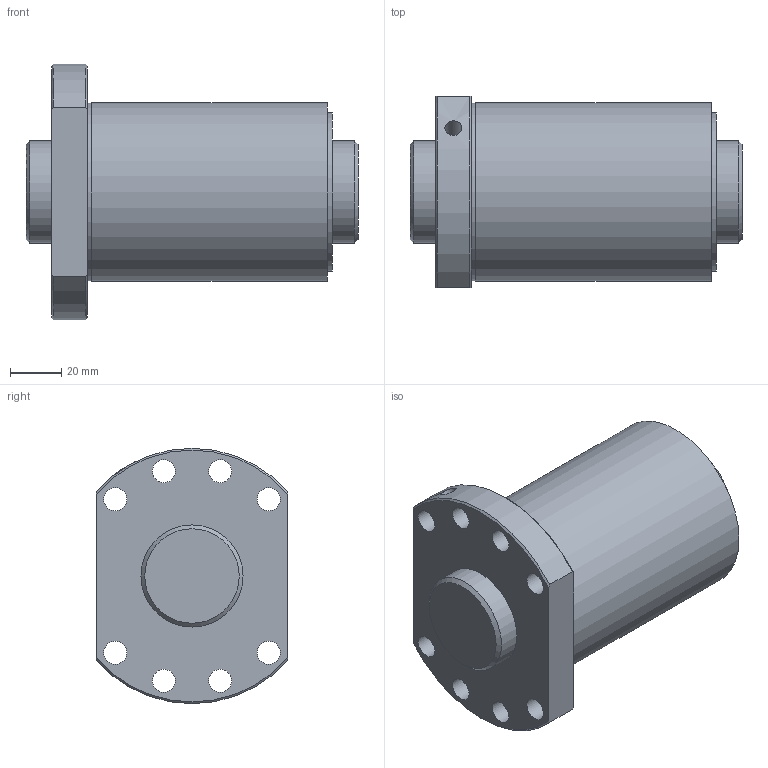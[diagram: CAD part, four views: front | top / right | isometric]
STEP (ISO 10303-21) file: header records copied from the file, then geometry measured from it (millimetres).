
FILE_DESCRIPTION(/* description */ ('STEP AP203'),/* implementation_level */ '2;1');
FILE_NAME(/* name */ 'SDA4020VA-10G0+130LC0(0G000)',/* time_stamp */ '2024-05-28T11:42:31+02:00',/* author */ ('License CC BY-ND 4.0'),/* organization */ ('CADENAS'),/* preprocessor_version */ 'ST-DEVELOPER v19.3',/* originating_system */ 'PARTsolutions',/* authorisation */ ' ');
FILE_SCHEMA (('CONFIG_CONTROL_DESIGN'));
Length unit declared in the file: millimetre
Products named in the file (3): SDA4020VA-10G0+130LC0(0G000); 000SDA4020VA-100Shaft; SDA-V serieSDA4020VA-10nut
Assembly tree (2 placements, depth 2):
  SDA4020VA-10G0+130LC0(0G000)
    000SDA4020VA-100Shaft
    SDA-V serieSDA4020VA-10nut
Bounding box: 130 x 75 x 100 mm (x, y, z)
Volume: 478548.3 mm3; surface area: 71288.5 mm2
Topology: 2 solids, 2 shells, 33 faces, 75 edges, 49 vertices
Faces by surface type: cylinder 17, plane 9, cone 7
Full cylindrical faces by diameter (mm): 5.2 x1, 6.647 x1, 9 x8, 40 x2, 62 x1, 69.6 x1, 70 x1
Entity records: 983 total; most frequent: CARTESIAN_POINT 184, DIRECTION 156, ORIENTED_EDGE 112, EDGE_LOOP 74, FACE_BOUND 74, AXIS2_PLACEMENT_3D 74, EDGE_CURVE 56, VERTEX_POINT 48
